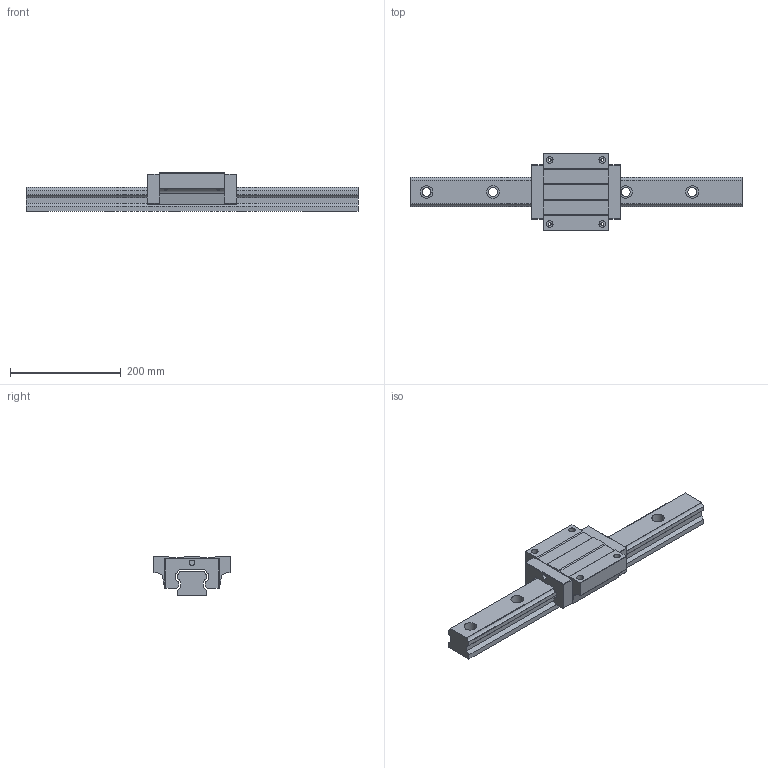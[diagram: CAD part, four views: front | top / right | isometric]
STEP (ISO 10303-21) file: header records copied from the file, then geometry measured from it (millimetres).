
FILE_DESCRIPTION (( 'STEP AP203' ), '1' );
FILE_NAME ('TRH55FL-XN.STEP', '2023-02-07T02:44:38', ( '' ), ( '' ), 'SwSTEP 2.0', 'SolidWorks 2019', '' );
FILE_SCHEMA (( 'CONFIG_CONTROL_DESIGN' ));
Length unit declared in the file: millimetre
Products named in the file (1): TRH55FL-XN
Bounding box: 600 x 140 x 70 mm (x, y, z)
Volume: 1917298.7 mm3; surface area: 220612.3 mm2
Topology: 2 solids, 2 shells, 153 faces, 390 edges, 248 vertices
Faces by surface type: plane 77, cylinder 72, sphere 4
Entity records: 5112 total; most frequent: CARTESIAN_POINT 1231, DIRECTION 812, ORIENTED_EDGE 772, EDGE_CURVE 386, AXIS2_PLACEMENT_3D 286, VERTEX_POINT 248, VECTOR 240, LINE 240
